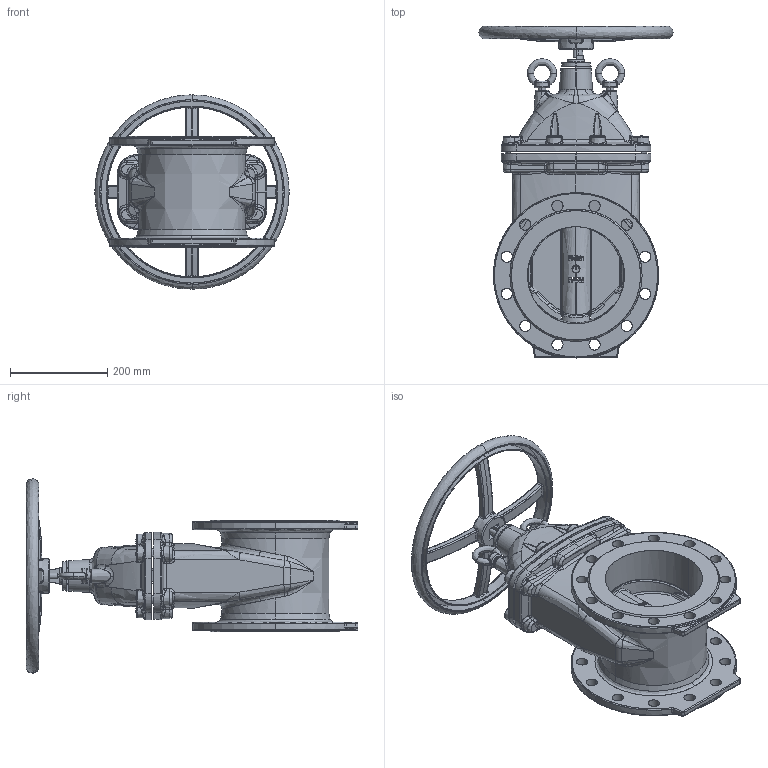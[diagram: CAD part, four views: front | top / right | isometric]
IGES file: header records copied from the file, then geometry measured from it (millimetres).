
Start section: SolidWorks IGES file using analytic representation for surfaces
Global section: file name: H:\BE BIBLIOTHEQUE 3D\BE SECTION 09 - ROBINETS ADDUCTION EAU\VO - Vanne opercule caoutchouc\VOC 4241C\JINMAO\CAO\VOC4241C-00\DN 200\VOC4241C-00EP0200.IGS; native system: SolidWorks 2020; preprocessor: SolidWorks 2020; author: k.gigout; date: 211117.165137; units: millimetre
Bounding box: 399.98 x 683 x 399.97 mm (x, y, z)
Surface area: 1140153 mm2 (no closed solid volume)
Topology: 0 solids, 0 shells, 1285 faces, 17980 edges, 17927 vertices
Faces by surface type: bspline 947, revolution 338
